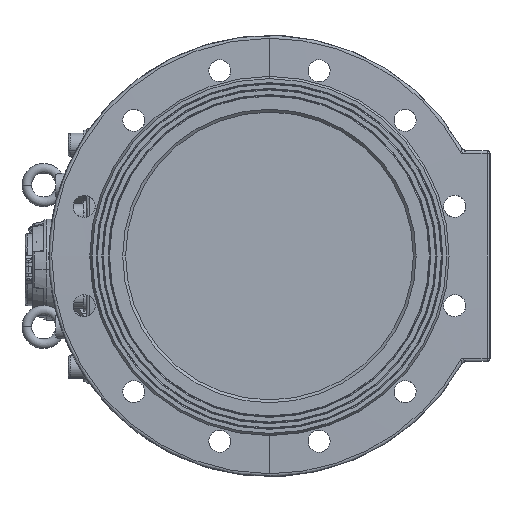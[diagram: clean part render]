
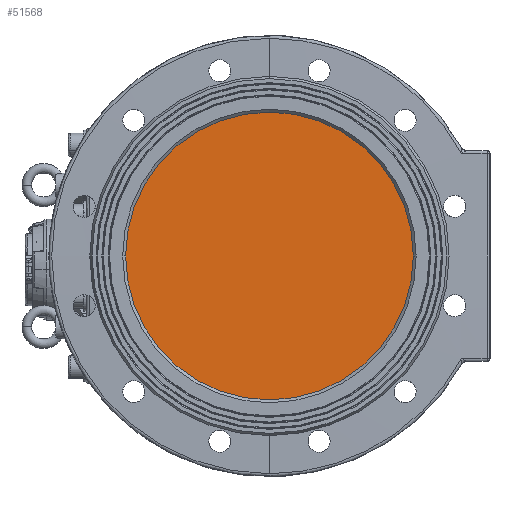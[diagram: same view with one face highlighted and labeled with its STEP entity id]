
A CAD part, left-side view. The second image highlights one B-rep face of the part: STEP entity #51568.
In plain terms, the highlighted planar face has unit normal (-1, 0, 0).
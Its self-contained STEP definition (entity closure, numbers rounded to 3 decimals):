
#3985 = DIRECTION ( 'NONE',  ( 0., -1., 0. ) ) ;
#3988 = AXIS2_PLACEMENT_3D ( 'NONE', #97934, #116713, #3985 ) ;
#9746 = PLANE ( 'NONE',  #65067 ) ;
#10746 = ORIENTED_EDGE ( 'NONE', *, *, #61837, .T. ) ;
#12912 = CIRCLE ( 'NONE', #16717, 150. ) ;
#16717 = AXIS2_PLACEMENT_3D ( 'NONE', #30699, #27285, #36361 ) ;
#19133 = EDGE_CURVE ( 'NONE', #50880, #115754, #108576, .T. ) ;
#19838 = CARTESIAN_POINT ( 'NONE',  ( -247., 150., 0. ) ) ;
#20004 = FACE_OUTER_BOUND ( 'NONE', #57562, .T. ) ;
#27285 = DIRECTION ( 'NONE',  ( -1., 0., 0. ) ) ;
#30699 = CARTESIAN_POINT ( 'NONE',  ( -247., 0., 0. ) ) ;
#36361 = DIRECTION ( 'NONE',  ( 0., -1., 0. ) ) ;
#46664 = CARTESIAN_POINT ( 'NONE',  ( -247., 0., 0. ) ) ;
#50880 = VERTEX_POINT ( 'NONE', #65782 ) ;
#51568 = ADVANCED_FACE ( 'NONE', ( #20004 ), #9746, .F. ) ;
#57562 = EDGE_LOOP ( 'NONE', ( #64544, #10746 ) ) ;
#61837 = EDGE_CURVE ( 'NONE', #115754, #50880, #12912, .T. ) ;
#64544 = ORIENTED_EDGE ( 'NONE', *, *, #19133, .T. ) ;
#65067 = AXIS2_PLACEMENT_3D ( 'NONE', #46664, #83633, #65510 ) ;
#65510 = DIRECTION ( 'NONE',  ( 0., 0., -1. ) ) ;
#65782 = CARTESIAN_POINT ( 'NONE',  ( -247., -150., 0. ) ) ;
#83633 = DIRECTION ( 'NONE',  ( 1., 0., 0. ) ) ;
#97934 = CARTESIAN_POINT ( 'NONE',  ( -247., 0., 0. ) ) ;
#108576 = CIRCLE ( 'NONE', #3988, 150. ) ;
#115754 = VERTEX_POINT ( 'NONE', #19838 ) ;
#116713 = DIRECTION ( 'NONE',  ( -1., 0., 0. ) ) ;
